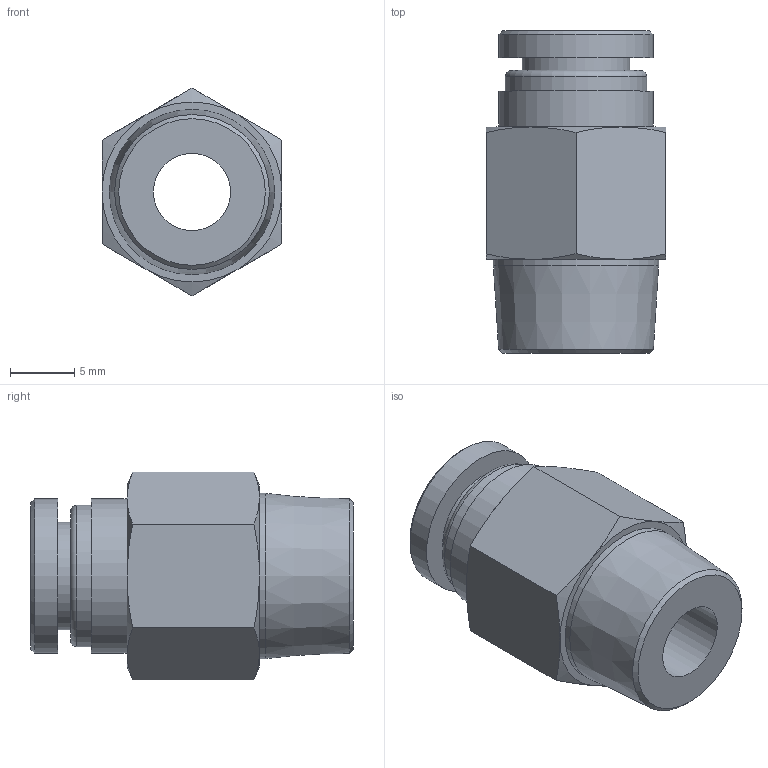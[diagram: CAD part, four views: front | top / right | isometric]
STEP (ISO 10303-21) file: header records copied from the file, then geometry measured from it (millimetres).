
FILE_DESCRIPTION(/* description */ (''),/* implementation_level */ '2;1');
FILE_NAME(/* name */ 'LXH11 0008 B2.stp',/* time_stamp */ '2026-04-19T14:11:42+02:00',/* author */ ('freju'),/* organization */ (''),/* preprocessor_version */ 'ST-DEVELOPER v20.1',/* originating_system */ 'Autodesk Inventor 2026',/* authorisation */ '');
FILE_SCHEMA (('AUTOMOTIVE_DESIGN { 1 0 10303 214 3 1 1 }'));
Length unit declared in the file: millimetre
Products named in the file (1): LXH11 0008 B2
Bounding box: 14 x 25.1 x 16.17 mm (x, y, z)
Volume: 2438.8 mm3; surface area: 1943.5 mm2
Topology: 1 solids, 1 shells, 37 faces, 74 edges, 45 vertices
Faces by surface type: cone 15, plane 14, cylinder 7, torus 1
Full cylindrical faces by diameter (mm): 6 x1, 8 x1, 8.4 x1, 11 x1, 12 x2, 12.851 x1
Entity records: 981 total; most frequent: CARTESIAN_POINT 205, DIRECTION 160, ORIENTED_EDGE 148, EDGE_CURVE 74, AXIS2_PLACEMENT_3D 72, EDGE_LOOP 45, VERTEX_POINT 45, FACE_OUTER_BOUND 37
